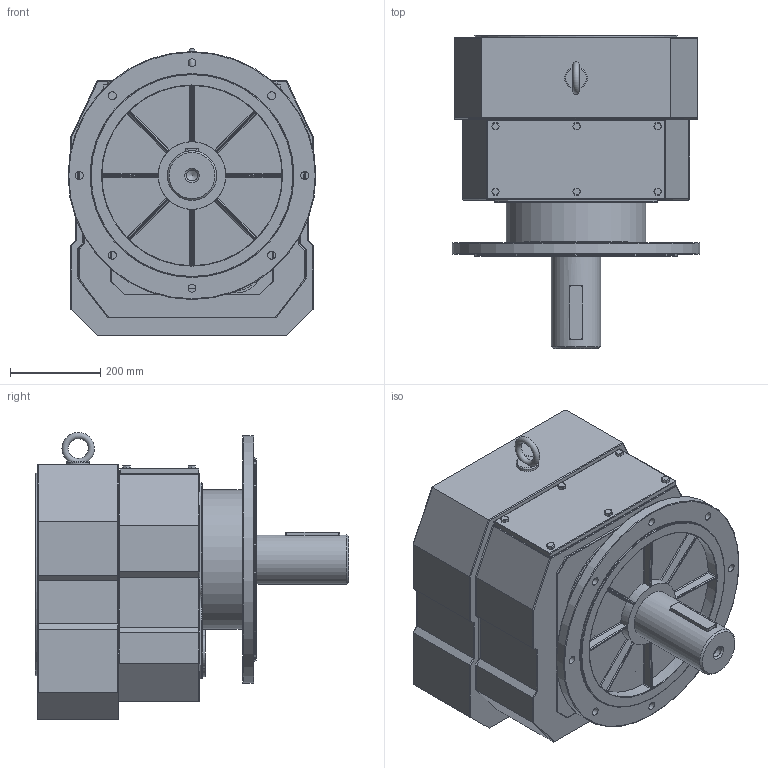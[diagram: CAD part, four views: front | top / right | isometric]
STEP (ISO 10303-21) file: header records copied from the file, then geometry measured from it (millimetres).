
FILE_DESCRIPTION((''),'2;1');
FILE_NAME('D:\PAWEŁ\ZLECENIA\2011 DualSystem\Przekładnie DR\DR140\STEP\DRF140_fi 550.stp','2012-06-11T12:44:31',('admin'),(''),'Autodesk Inventor 2009','Autodesk Inventor 2009','');
FILE_SCHEMA(('AUTOMOTIVE_DESIGN { 1 0 10303 214 1 1 1 1 }'));
Length unit declared in the file: millimetre
Products named in the file (1): DRF140_fi 550
Bounding box: 550 x 695 x 636.93 mm (x, y, z)
Volume: 110351026 mm3; surface area: 2092132.9 mm2
Topology: 2 solids, 2 shells, 508 faces, 1222 edges, 694 vertices
Faces by surface type: cylinder 231, plane 165, bspline 47, sphere 44, torus 19, cone 2
Full cylindrical faces by diameter (mm): 50 x1, 73.333 x1, 100 x1, 110 x2, 150 x1, 310 x1, 340 x1, 400 x1, 450 x2, 550 x1
Entity records: 18850 total; most frequent: CARTESIAN_POINT 7163, DIRECTION 2502, ORIENTED_EDGE 2272, EDGE_CURVE 1136, AXIS2_PLACEMENT_3D 947, VERTEX_POINT 681, VECTOR 608, LINE 608
